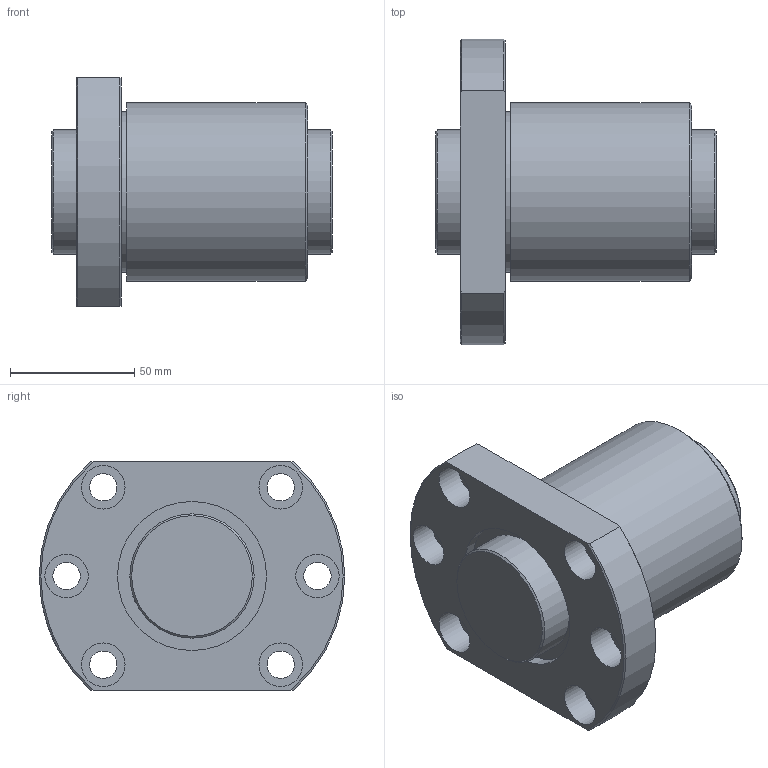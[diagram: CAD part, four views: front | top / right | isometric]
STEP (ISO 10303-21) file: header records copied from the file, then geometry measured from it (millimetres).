
FILE_DESCRIPTION(/* description */ ('STEP AP203'),/* implementation_level */ '2;1');
FILE_NAME(/* name */ 'DK5010-4RRG1+113LC0_000',/* time_stamp */ '2025-01-13T09:21:00+01:00',/* author */ ('License CC BY-ND 4.0'),/* organization */ ('CADENAS'),/* preprocessor_version */ 'ST-DEVELOPER v19.3',/* originating_system */ 'PARTsolutions',/* authorisation */ ' ');
FILE_SCHEMA (('CONFIG_CONTROL_DESIGN'));
Length unit declared in the file: millimetre
Products named in the file (3): DK5010-4RRG1+113LC0_000; DK 5010-4RR011300 Shaft; DK 5010-4RR0Nut
Assembly tree (2 placements, depth 2):
  DK5010-4RRG1+113LC0_000
    DK 5010-4RR011300 Shaft
    DK 5010-4RR0Nut
Bounding box: 113 x 123 x 92 mm (x, y, z)
Volume: 495156.1 mm3; surface area: 82506.6 mm2
Topology: 2 solids, 2 shells, 46 faces, 94 edges, 62 vertices
Faces by surface type: cylinder 21, plane 16, cone 9
Full cylindrical faces by diameter (mm): 8.566 x1, 11 x6, 17.5 x6, 50 x2, 60 x2, 64.8 x1, 72 x1
Entity records: 1223 total; most frequent: CARTESIAN_POINT 227, DIRECTION 204, ORIENTED_EDGE 134, AXIS2_PLACEMENT_3D 98, EDGE_LOOP 96, FACE_BOUND 96, EDGE_CURVE 67, VERTEX_POINT 59
